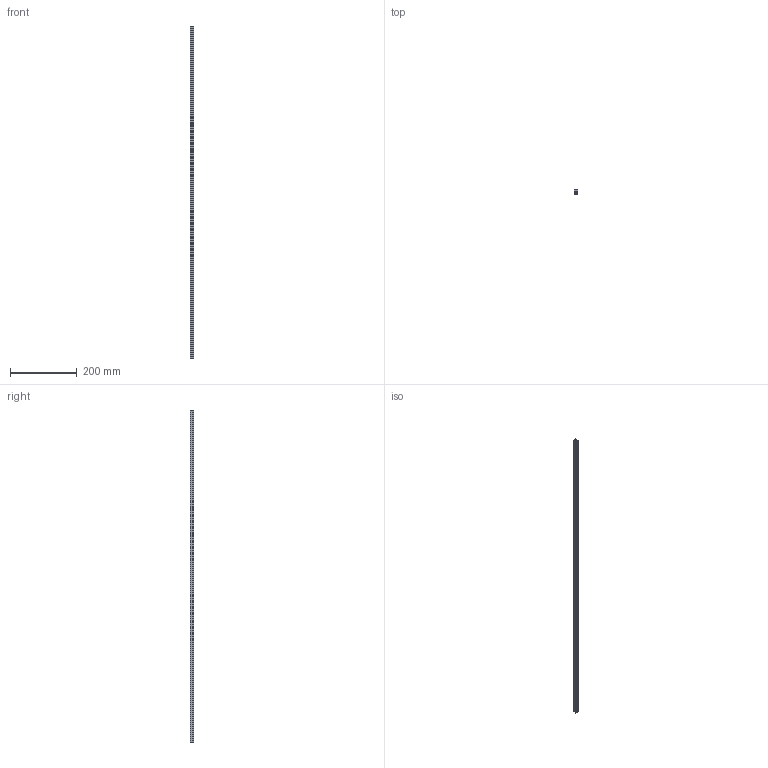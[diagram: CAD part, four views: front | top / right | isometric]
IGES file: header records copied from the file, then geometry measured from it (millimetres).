
Start section: 3D InterOp IGES (v. 2018 1.0.2), Spatial Corp. Copyright (c) 1999-2017.
Global section: file name: Cremaillere face.igs; native system: Spatial Corp.; preprocessor: 3D InterOp GENERIC/IGES 3.0; author: Noname; organization: Noname; date: 20190430.084200; units: millimetre
Bounding box: 12 x 12 x 997 mm (x, y, z)
Surface area: 65649.9 mm2 (no closed solid volume)
Topology: 0 solids, 0 shells, 122 faces, 720 edges, 720 vertices
Faces by surface type: extrusion 122
